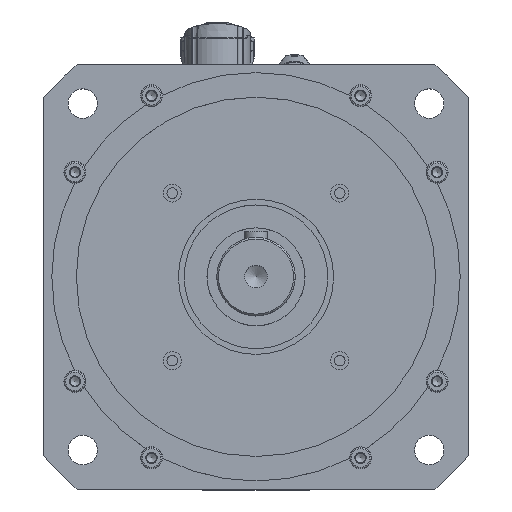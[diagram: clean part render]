
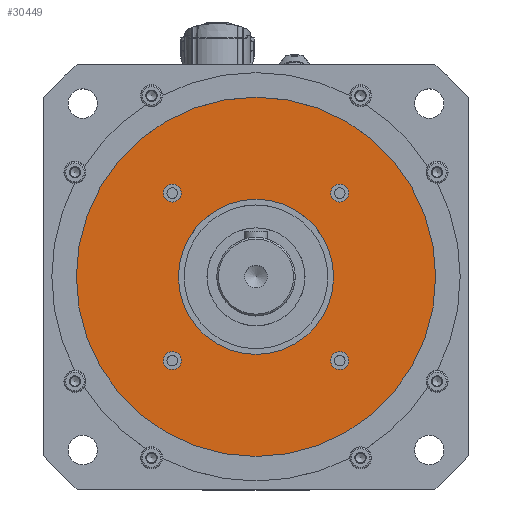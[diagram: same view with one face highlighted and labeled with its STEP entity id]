
A CAD part, top view. The second image highlights one B-rep face of the part: STEP entity #30449.
In plain terms, the highlighted planar face has unit normal (0, 0, 1).
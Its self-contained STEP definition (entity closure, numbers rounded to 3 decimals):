
#9174=FACE_BOUND('',#9944,.T.);
#9175=FACE_BOUND('',#9945,.T.);
#9176=FACE_BOUND('',#9946,.T.);
#9177=FACE_BOUND('',#9947,.T.);
#9178=FACE_BOUND('',#9948,.T.);
#9179=FACE_BOUND('',#9949,.T.);
#9944=EDGE_LOOP('',(#21287));
#9945=EDGE_LOOP('',(#21288));
#9946=EDGE_LOOP('',(#21289));
#9947=EDGE_LOOP('',(#21290));
#9948=EDGE_LOOP('',(#21291));
#9949=EDGE_LOOP('',(#21292));
#12358=CIRCLE('',#32350,5.5);
#12361=CIRCLE('',#32356,5.5);
#12364=CIRCLE('',#32362,5.5);
#12367=CIRCLE('',#32368,5.5);
#12427=CIRCLE('',#32474,47.5);
#12428=CIRCLE('',#32477,110.);
#13798=VERTEX_POINT('',#43934);
#13801=VERTEX_POINT('',#43943);
#13804=VERTEX_POINT('',#43952);
#13807=VERTEX_POINT('',#43961);
#13871=VERTEX_POINT('',#44158);
#13872=VERTEX_POINT('',#44162);
#16817=EDGE_CURVE('',#13798,#13798,#12358,.T.);
#16820=EDGE_CURVE('',#13801,#13801,#12361,.T.);
#16823=EDGE_CURVE('',#13804,#13804,#12364,.T.);
#16826=EDGE_CURVE('',#13807,#13807,#12367,.T.);
#16913=EDGE_CURVE('',#13871,#13871,#12427,.T.);
#16914=EDGE_CURVE('',#13872,#13872,#12428,.T.);
#21287=ORIENTED_EDGE('',*,*,#16817,.T.);
#21288=ORIENTED_EDGE('',*,*,#16820,.T.);
#21289=ORIENTED_EDGE('',*,*,#16823,.T.);
#21290=ORIENTED_EDGE('',*,*,#16826,.T.);
#21291=ORIENTED_EDGE('',*,*,#16913,.T.);
#21292=ORIENTED_EDGE('',*,*,#16914,.F.);
#29582=PLANE('',#32478);
#30449=ADVANCED_FACE('',(#9174,#9175,#9176,#9177,#9178,#9179),#29582,.T.);
#32350=AXIS2_PLACEMENT_3D('',#43935,#35664,#35665);
#32356=AXIS2_PLACEMENT_3D('',#43944,#35676,#35677);
#32362=AXIS2_PLACEMENT_3D('',#43953,#35688,#35689);
#32368=AXIS2_PLACEMENT_3D('',#43962,#35700,#35701);
#32474=AXIS2_PLACEMENT_3D('',#44159,#35939,#35940);
#32477=AXIS2_PLACEMENT_3D('',#44163,#35945,#35946);
#32478=AXIS2_PLACEMENT_3D('',#44164,#35947,#35948);
#35664=DIRECTION('center_axis',(0.,0.,-1.));
#35665=DIRECTION('ref_axis',(0.,-1.,0.));
#35676=DIRECTION('center_axis',(0.,0.,-1.));
#35677=DIRECTION('ref_axis',(-1.,0.,0.));
#35688=DIRECTION('center_axis',(0.,0.,-1.));
#35689=DIRECTION('ref_axis',(0.,1.,0.));
#35700=DIRECTION('center_axis',(0.,0.,-1.));
#35701=DIRECTION('ref_axis',(1.,0.,0.));
#35939=DIRECTION('center_axis',(0.,0.,-1.));
#35940=DIRECTION('ref_axis',(-1.,0.,0.));
#35945=DIRECTION('center_axis',(0.,0.,-1.));
#35946=DIRECTION('ref_axis',(-1.,0.,0.));
#35947=DIRECTION('center_axis',(0.,0.,1.));
#35948=DIRECTION('ref_axis',(1.,0.,0.));
#43934=CARTESIAN_POINT('',(51.265,45.765,47.));
#43935=CARTESIAN_POINT('Origin',(51.265,51.265,47.));
#43943=CARTESIAN_POINT('',(45.765,-51.265,47.));
#43944=CARTESIAN_POINT('Origin',(51.265,-51.265,47.));
#43952=CARTESIAN_POINT('',(-51.265,-45.765,47.));
#43953=CARTESIAN_POINT('Origin',(-51.265,-51.265,47.));
#43961=CARTESIAN_POINT('',(-45.765,51.265,47.));
#43962=CARTESIAN_POINT('Origin',(-51.265,51.265,47.));
#44158=CARTESIAN_POINT('',(47.5,0.,47.));
#44159=CARTESIAN_POINT('Origin',(0.,0.,47.));
#44162=CARTESIAN_POINT('',(110.,0.,47.));
#44163=CARTESIAN_POINT('Origin',(0.,0.,47.));
#44164=CARTESIAN_POINT('Origin',(0.,0.,47.));
